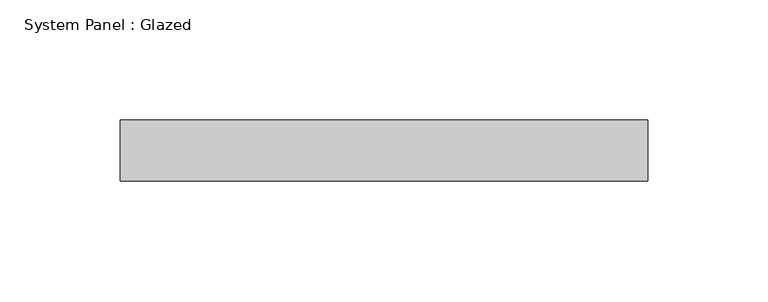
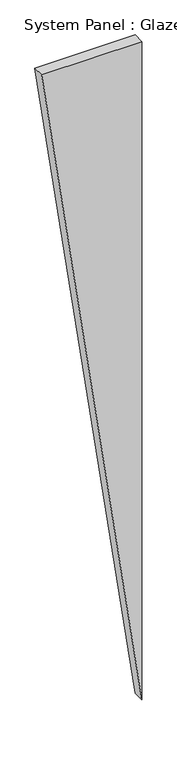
"""IFC4 building model written with IfcOpenShell, lengths in millimetres: plate geometry, System Panel : Glazed."""

from ifc_helpers import new_model, si_unit, frame, origin, place, context, project, spatial, polyline, outline, extrude, source, transform, mapped, element, save


def system_panel_glazed_d622b967(model_context):
    return source(origin(), model_context, "Body", "SweptSolid", [
        extrude(outline(polyline([(1524.0, -109.6402879), (0.0, 109.6402876), (1524.0, 109.6402879), (1524.0, -109.6402879)])), frame((0.0, 19.05, 0.0), z_axis=(0.0, 1.0, 0.0), x_axis=(0.0, 0.0, 1.0)), (0.0, 0.0, 1.0), 25.4),
    ])


if __name__ == "__main__":
    model = new_model("IFC4")
    model_context = context("Model", 3, world=origin())
    ifc_project = project(units=[si_unit("LENGTHUNIT", "METRE", prefix="MILLI")], contexts=[model_context])
    site = spatial("IfcSite", under=ifc_project)
    building = spatial("IfcBuilding", under=site)
    placement = place(None, origin())
    system_panel_glazed_shape = system_panel_glazed_d622b967(model_context)
    element("IfcPlate", 1, ObjectType="System Panel : Glazed", at=placement, inside=building, context=model_context, shape_type="MappedRepresentation", body=[
        mapped(system_panel_glazed_shape, transform((0.0, 0.0, 0.0), x_axis=(1.0, 0.0, 0.0), y_axis=(0.0, 1.0, 0.0), z_axis=(0.0, 0.0, 1.0))),
    ])
    save(model, "model.ifc")
